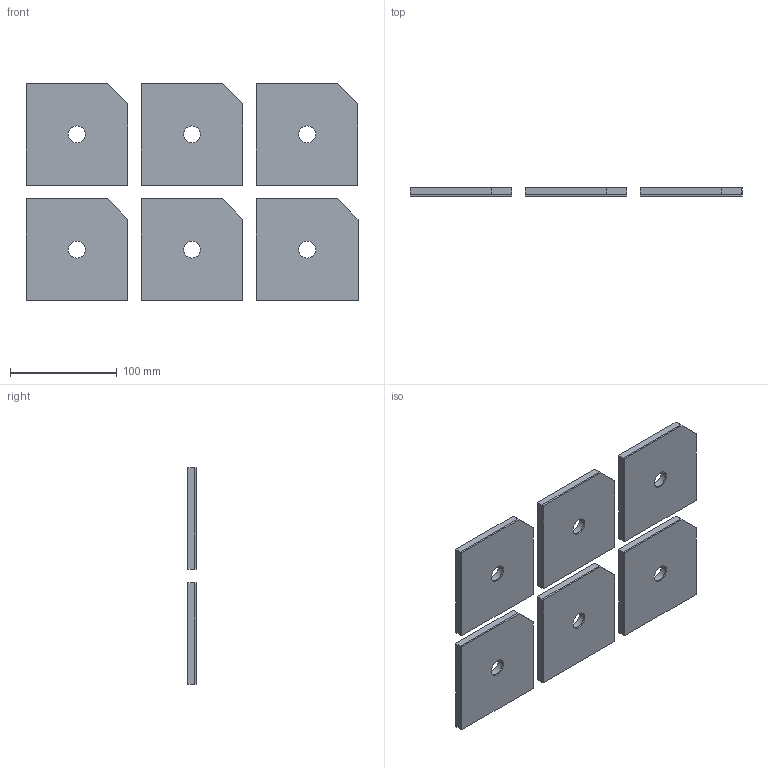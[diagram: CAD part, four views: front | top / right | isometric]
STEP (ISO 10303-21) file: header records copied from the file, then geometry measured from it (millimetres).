
FILE_DESCRIPTION (( 'STEP AP203' ), '1' );
FILE_NAME ('asmp58ss.STEP', '2017-01-11T16:24:57', ( '' ), ( '' ), 'SwSTEP 2.0', 'SolidWorks 2014', '' );
FILE_SCHEMA (( 'CONFIG_CONTROL_DESIGN' ));
Length unit declared in the file: inch
Products named in the file (4): 89124532; asmp58ss; 89124531; 89121186
Assembly tree (8 placements, depth 3):
  asmp58ss
    89124531  x6
      89121186
      89124532
Bounding box: 311.15 x 7.94 x 203.2 mm (x, y, z)
Volume: 412861.7 mm3; surface area: 228402.5 mm2
Topology: 12 solids, 12 shells, 108 faces, 252 edges, 168 vertices
Faces by surface type: plane 84, cylinder 24
Entity records: 1108 total; most frequent: DIRECTION 110, CARTESIAN_POINT 100, ORIENTED_EDGE 84, EDGE_CURVE 42, PERSON_AND_ORGANIZATION 40, AXIS2_PLACEMENT_3D 38, COORDINATED_UNIVERSAL_TIME_OFFSET 36, DATE_AND_TIME 36
